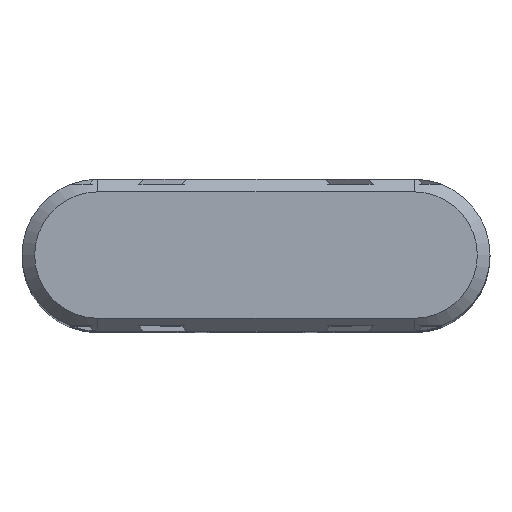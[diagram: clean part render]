
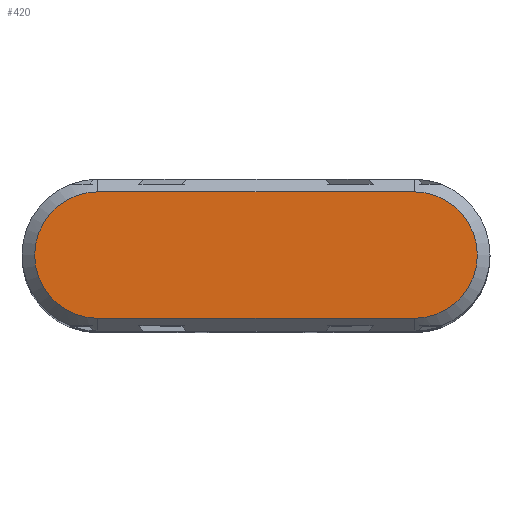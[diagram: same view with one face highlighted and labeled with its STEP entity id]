
A CAD part, top view. The second image highlights one B-rep face of the part: STEP entity #420.
In plain terms, the highlighted planar face has unit normal (0, 0, 1).
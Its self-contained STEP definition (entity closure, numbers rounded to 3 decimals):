
#10=CARTESIAN_POINT('',(13.869,4.044,-32.4));
#20=DIRECTION('',(0.,-0.,1.));
#30=DIRECTION('',(0.,1.,0.));
#40=AXIS2_PLACEMENT_3D('',#10,#20,#30);
#50=PLANE('',#40);
#60=CARTESIAN_POINT('',(13.869,1.544,-32.4));
#70=DIRECTION('',(-1.,0.,0.));
#80=VECTOR('',#70,1.);
#90=LINE('',#60,#80);
#100=CARTESIAN_POINT('',(20.119,1.544,-32.4));
#110=VERTEX_POINT('',#100);
#120=CARTESIAN_POINT('',(7.619,1.544,-32.4));
#130=VERTEX_POINT('',#120);
#140=EDGE_CURVE('',#110,#130,#90,.T.);
#150=ORIENTED_EDGE('',*,*,#140,.F.);
#160=CARTESIAN_POINT('',(7.619,4.044,-32.4));
#170=DIRECTION('',(0.,0.,1.));
#180=DIRECTION('',(0.,1.,0.));
#190=AXIS2_PLACEMENT_3D('',#160,#170,#180);
#200=CIRCLE('',#190,2.5);
#210=CARTESIAN_POINT('',(7.619,6.544,-32.4));
#220=VERTEX_POINT('',#210);
#230=EDGE_CURVE('',#220,#130,#200,.T.);
#240=ORIENTED_EDGE('',*,*,#230,.T.);
#250=CARTESIAN_POINT('',(13.869,6.544,-32.4));
#260=DIRECTION('',(1.,0.,0.));
#270=VECTOR('',#260,1.);
#280=LINE('',#250,#270);
#290=CARTESIAN_POINT('',(20.119,6.544,-32.4));
#300=VERTEX_POINT('',#290);
#310=EDGE_CURVE('',#220,#300,#280,.T.);
#320=ORIENTED_EDGE('',*,*,#310,.F.);
#330=CARTESIAN_POINT('',(20.119,4.044,-32.4));
#340=DIRECTION('',(0.,0.,1.));
#350=DIRECTION('',(0.,1.,0.));
#360=AXIS2_PLACEMENT_3D('',#330,#340,#350);
#370=CIRCLE('',#360,2.5);
#380=EDGE_CURVE('',#110,#300,#370,.T.);
#390=ORIENTED_EDGE('',*,*,#380,.T.);
#400=EDGE_LOOP('',(#390,#320,#240,#150));
#410=FACE_OUTER_BOUND('',#400,.T.);
#420=ADVANCED_FACE('',(#410),#50,.T.);
